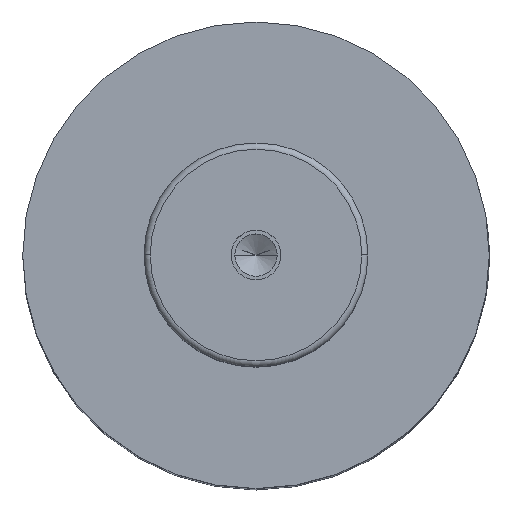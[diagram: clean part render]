
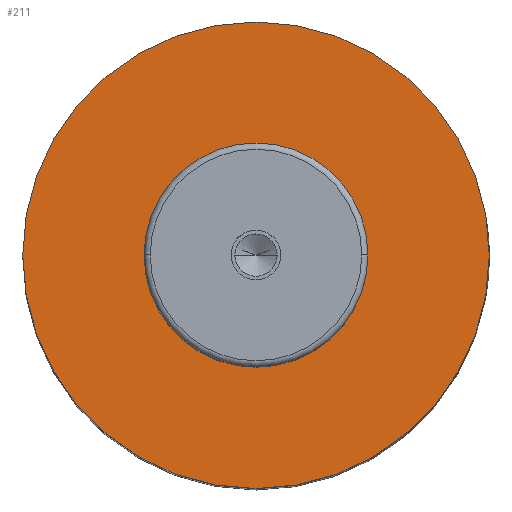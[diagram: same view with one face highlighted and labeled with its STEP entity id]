
A CAD part, top view. The second image highlights one B-rep face of the part: STEP entity #211.
In plain terms, the highlighted planar face has unit normal (0, 0, 1).
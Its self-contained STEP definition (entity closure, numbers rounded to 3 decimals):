
#109=PLANE('',#1266);
#138=FACE_BOUND('',#359,.T.);
#139=FACE_BOUND('',#360,.T.);
#211=ADVANCED_FACE('',(#138,#139),#109,.T.);
#359=EDGE_LOOP('',(#571,#572));
#360=EDGE_LOOP('',(#573,#574));
#451=CIRCLE('',#1260,18.);
#452=CIRCLE('',#1262,18.);
#453=CIRCLE('',#1264,37.5);
#454=CIRCLE('',#1265,37.5);
#571=ORIENTED_EDGE('',*,*,#970,.F.);
#572=ORIENTED_EDGE('',*,*,#971,.F.);
#573=ORIENTED_EDGE('',*,*,#969,.T.);
#574=ORIENTED_EDGE('',*,*,#967,.T.);
#856=VERTEX_POINT('',#1837);
#857=VERTEX_POINT('',#1839);
#858=VERTEX_POINT('',#1845);
#859=VERTEX_POINT('',#1846);
#967=EDGE_CURVE('',#857,#856,#451,.T.);
#969=EDGE_CURVE('',#856,#857,#452,.T.);
#970=EDGE_CURVE('',#858,#859,#453,.T.);
#971=EDGE_CURVE('',#859,#858,#454,.T.);
#1260=AXIS2_PLACEMENT_3D('',#1838,#1456,#1457);
#1262=AXIS2_PLACEMENT_3D('',#1842,#1461,#1462);
#1264=AXIS2_PLACEMENT_3D('',#1844,#1465,#1466);
#1265=AXIS2_PLACEMENT_3D('',#1847,#1467,#1468);
#1266=AXIS2_PLACEMENT_3D('',#1848,#1469,#1470);
#1456=DIRECTION('',(0.,0.,-1.));
#1457=DIRECTION('',(0.,1.,0.));
#1461=DIRECTION('',(0.,0.,-1.));
#1462=DIRECTION('',(0.,-1.,0.));
#1465=DIRECTION('',(0.,0.,-1.));
#1466=DIRECTION('',(0.,1.,0.));
#1467=DIRECTION('',(0.,0.,-1.));
#1468=DIRECTION('',(0.,-1.,0.));
#1469=DIRECTION('',(0.,0.,1.));
#1470=DIRECTION('',(0.,-1.,0.));
#1837=CARTESIAN_POINT('',(-18.,0.,132.));
#1838=CARTESIAN_POINT('',(0.,0.,132.));
#1839=CARTESIAN_POINT('',(18.,0.,132.));
#1842=CARTESIAN_POINT('',(0.,0.,132.));
#1844=CARTESIAN_POINT('',(0.,0.,132.));
#1845=CARTESIAN_POINT('',(37.5,0.,132.));
#1846=CARTESIAN_POINT('',(-37.5,0.,132.));
#1847=CARTESIAN_POINT('',(0.,0.,132.));
#1848=CARTESIAN_POINT('',(0.,0.,132.));
